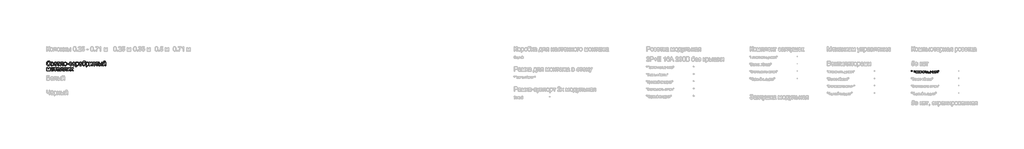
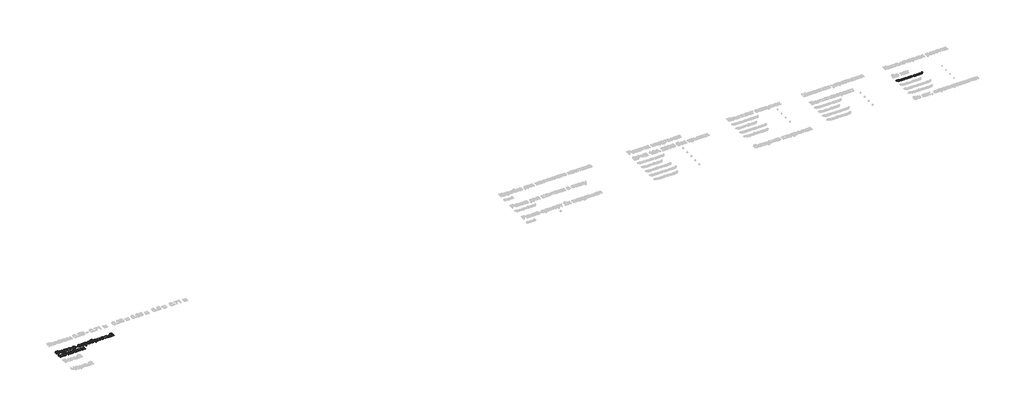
# One storey, part 77 of 168: 2 proxies.
"""IFC4 building model written with IfcOpenShell, lengths in millimetres."""

from ifc_helpers import new_model, si_unit, origin, origin_with_axes, place, context, project, spatial, polyline, outline, extrude, element, save

model = new_model("IFC4")

# Units and contexts
model_context = context("Model", 3, world=origin())
ifc_project = project(units=[si_unit("LENGTHUNIT", "METRE", prefix="MILLI")], contexts=[model_context])

# Site, building, storey
site = spatial("IfcSite", under=ifc_project)
building = spatial("IfcBuilding", under=site)
storey = spatial("IfcBuildingStorey", under=building, Name="Этаж 01", Elevation=0.0)

# Proxies
placement = place(None, origin())
element("IfcBuildingElementProxy", 1, Name="300 мм Arial 2", ObjectType="300 мм Arial 2", at=placement, inside=storey, context=model_context, shape_type="SweptSolid", body=[
    extrude(outline(polyline([(990.7177608, -31859.7350607), (1028.3888771, -31869.4471454), (1020.9346682, -31892.8743307), (1011.0064528, -31913.3446645), (998.6042311, -31930.8581467), (983.7280029, -31945.4147774), (966.7134606, -31956.8582067), (947.8962965, -31965.0320848), (927.2765107, -31969.9364117), (904.8541031, -31971.5711873), (861.1589191, -31966.6231744), (826.4584499, -31951.7791359), (799.8605817, -31927.5541065), (780.4732005, -31894.4631211), (768.6365973, -31855.5596001), (764.6910629, -31813.8969641), (769.1516321, -31769.9534598), (782.5333397, -31732.006432), (804.1372099, -31701.2606943), (833.2642668, -31678.9210601), (867.8083862, -31665.3186233), (905.6634435, -31660.7844777), (946.9673945, -31666.6521956), (964.9361307, -31673.9868428), (981.1160407, -31684.255349), (995.2404101, -31697.1864012), (1007.0425243, -31712.5086863), (1023.6799876, -31750.3269554), (986.0088712, -31759.3032761), (972.9490604, -31731.8316881), (955.1067837, -31712.9869329), (932.2613118, -31702.0884288), (904.1919155, -31698.4555941), (871.836694, -31702.4839019), (845.2572199, -31714.5688254), (825.0880895, -31733.4411718), (811.9638993, -31757.8317481), (804.7626093, -31785.4045036), (802.3621793, -31813.8233877), (805.2040677, -31848.6250245), (813.7297329, -31878.7177717), (828.2610717, -31902.9519981), (849.1199808, -31920.1780725), (874.1267595, -31930.4695714), (901.1017068, -31933.900071), (932.5464203, -31929.2279696), (958.7488154, -31915.2116656), (978.5316697, -31891.9983117), (990.7177608, -31859.7350607)])), origin_with_axes(), (0.0, 0.0, 1.0), 20.0),
    extrude(outline(polyline([(1075.4777725, -31745.5444894), (1158.4719506, -31745.5444894), (1185.1525923, -31746.8044853), (1203.9789534, -31750.5844728), (1217.8297105, -31757.7213835), (1229.5835403, -31769.0521489), (1237.6125648, -31783.813414), (1240.2889063, -31801.2418235), (1238.6702255, -31815.2857187), (1233.8141832, -31827.3982334), (1225.7023852, -31837.6345499), (1214.3164375, -31846.0498505), (1228.2591651, -31853.87654), (1239.6267187, -31866.4673012), (1247.1866937, -31882.828853), (1249.7066854, -31901.9679138), (1243.3239328, -31930.6811035), (1228.1488005, -31950.8962191), (1204.1261062, -31962.8707781), (1171.2006676, -31966.8622977), (1075.4777725, -31966.8622977), (1075.4777725, -31745.5444894)]), holes=[polyline([(1113.1488888, -31830.3045011), (1150.3785467, -31830.3045011), (1181.0966933, -31828.3915147), (1196.0327023, -31820.7395692), (1200.9715181, -31814.4119989), (1202.61779, -31806.9072062), (1199.7299163, -31795.6684113), (1191.0662954, -31788.4395301), (1175.4129165, -31784.5215868), (1151.5557691, -31783.2156057), (1113.1488888, -31783.2156057), (1113.1488888, -31830.3045011)]), polyline([(1113.1488888, -31929.1911814), (1159.3548674, -31929.1911814), (1184.5363899, -31927.4897272), (1200.3369216, -31922.3853645), (1208.8166016, -31913.1055412), (1212.0355691, -31898.877705), (1210.4260854, -31889.4507289), (1205.5976342, -31880.7411227), (1198.184812, -31873.9261087), (1188.8222152, -31870.1829094), (1155.6760474, -31867.9756174), (1113.1488888, -31867.9756174), (1113.1488888, -31929.1911814)])]), origin_with_axes(), (0.0, 0.0, 1.0), 20.0),
    extrude(outline(polyline([(1451.7474771, -31900.9378442), (1488.6828295, -31905.6467337), (1475.3746983, -31933.4770067), (1454.1387101, -31954.2807335), (1425.4531115, -31967.2485738), (1389.7961492, -31971.5711873), (1366.4218469, -31969.7064854), (1345.5951274, -31964.1123798), (1327.3159908, -31954.7888705), (1311.584437, -31941.7359575), (1298.9338949, -31925.3169242), (1289.8977934, -31905.8950541), (1284.4761325, -31883.4703472), (1282.6689122, -31858.0428036), (1284.4945266, -31831.7530365), (1289.9713698, -31808.5810693), (1299.0994418, -31788.526902), (1311.8787426, -31771.5905347), (1327.5689097, -31758.1352507), (1345.4295805, -31748.5243336), (1365.4607552, -31742.7577833), (1387.6624336, -31740.8355999), (1409.1490414, -31742.7531848), (1428.5801085, -31748.5059395), (1445.955635, -31758.093864), (1461.2756208, -31771.5169583), (1473.7813094, -31788.4165374), (1482.7139441, -31808.4339165), (1488.0735249, -31831.5690955), (1489.8600518, -31857.8220744), (1489.6393226, -31867.9756174), (1320.3400285, -31867.9756174), (1326.8607368, -31896.1737724), (1342.008278, -31916.9039228), (1363.8696655, -31929.6510339), (1390.5319131, -31933.900071), (1410.5814819, -31931.9319023), (1427.4672655, -31926.0273963), (1441.1892639, -31915.8186709), (1451.7474771, -31900.9378442)]), holes=[polyline([(1320.3400285, -31830.3045011), (1452.1889355, -31830.3045011), (1447.0937699, -31810.4020852), (1437.1057737, -31796.165052), (1415.1432186, -31782.9213001), (1387.5152808, -31778.5067162), (1362.1222261, -31782.0291863), (1341.1253612, -31792.5965966), (1326.529643, -31809.068513), (1320.3400285, -31830.3045011)])]), origin_with_axes(), (0.0, 0.0, 1.0), 20.0),
    extrude(outline(polyline([(1508.69561, -31745.5444894), (1687.6334124, -31745.5444894), (1687.6334124, -31783.2156057), (1617.0000694, -31783.2156057), (1617.0000694, -31966.8622977), (1579.3289531, -31966.8622977), (1579.3289531, -31783.2156057), (1508.69561, -31783.2156057), (1508.69561, -31745.5444894)])), origin_with_axes(), (0.0, 0.0, 1.0), 20.0),
    extrude(outline(polyline([(1739.4311974, -31745.5444894), (1908.9512207, -31745.5444894), (1908.9512207, -31966.6415685), (1871.2801044, -31966.6415685), (1871.2801044, -31783.2156057), (1777.1023137, -31783.2156057), (1777.1023137, -31888.7977384), (1774.5639279, -31937.5053145), (1769.8090531, -31948.5325773), (1760.6212003, -31958.069918), (1746.6784727, -31964.6642028), (1727.6589735, -31966.8622977), (1697.0511915, -31964.9493114), (1697.0511915, -31929.1911814), (1713.9001869, -31929.1911814), (1730.9331233, -31926.8735249), (1737.7389402, -31919.515885), (1739.4311974, -31886.6640228), (1739.4311974, -31745.5444894)])), origin_with_axes(), (0.0, 0.0, 1.0), 20.0),
    extrude(outline(polyline([(1956.0401161, -31856.2033936), (1958.0772627, -31827.5407876), (1964.1887023, -31802.8421102), (1974.3744351, -31782.1073612), (1988.6344609, -31765.3365408), (2002.9910558, -31754.6173791), (2018.8375727, -31746.9608351), (2036.1740117, -31742.3669087), (2055.0003728, -31740.8355999), (2075.7834063, -31742.7003018), (2094.5752785, -31748.2944073), (2111.3759893, -31757.6179167), (2126.1855389, -31770.6708297), (2138.2727617, -31787.0116881), (2146.9064923, -31806.1990334), (2152.0867306, -31828.2328656), (2153.8134767, -31853.1131848), (2150.7600562, -31891.1705772), (2141.5997945, -31920.1412843), (2126.5994061, -31941.837125), (2106.0256056, -31958.069918), (2081.589044, -31968.19587), (2055.0003728, -31971.5711873), (2033.9138367, -31969.7133832), (2014.9472206, -31964.139971), (1998.1005245, -31954.8509506), (1983.3737484, -31941.8463221), (1971.4152843, -31925.3468146), (1962.8735242, -31905.5731573), (1957.7484681, -31882.5253503), (1956.0401161, -31856.2033936)]), holes=[polyline([(1993.7112324, -31856.1298172), (1998.0706341, -31890.2232811), (2011.148839, -31914.5126898), (2030.8305257, -31929.0532257), (2055.0003728, -31933.900071), (2079.0598553, -31929.0256345), (2098.7047539, -31914.4023252), (2111.7829588, -31889.7910197), (2116.1423604, -31854.9525948), (2111.7553676, -31821.8524123), (2098.5943893, -31797.8940973), (2078.9218996, -31783.3535615), (2055.0003728, -31778.5067162), (2030.8305257, -31783.3351674), (2011.148839, -31797.8205209), (1998.0706341, -31822.0547474), (1993.7112324, -31856.1298172)])]), origin_with_axes(), (0.0, 0.0, 1.0), 20.0),
    extrude(outline(polyline([(2177.3579244, -31877.3933965), (2177.3579244, -31839.7222802), (2295.0801629, -31839.7222802), (2295.0801629, -31877.3933965), (2177.3579244, -31877.3933965)])), origin_with_axes(), (0.0, 0.0, 1.0), 20.0),
    extrude(outline(polyline([(2478.7268549, -31886.8111756), (2516.3979712, -31891.5200651), (2505.8949402, -31925.0249178), (2486.1580712, -31950.3443962), (2459.0451681, -31966.2644895), (2426.4140352, -31971.5711873), (2405.2861123, -31969.720281), (2386.3424888, -31964.1675621), (2369.5831647, -31954.9130307), (2355.0081399, -31941.9566867), (2343.2106242, -31925.5422519), (2334.7838272, -31905.9134482), (2329.727749, -31883.0702755), (2328.0423897, -31857.012734), (2330.9210663, -31823.4894872), (2339.5570961, -31794.4360066), (2354.0884349, -31770.9743324), (2374.6530384, -31754.2265045), (2399.2551469, -31744.1833261), (2425.8990004, -31740.8355999), (2457.72999, -31745.4341248), (2483.178227, -31759.2296997), (2501.434371, -31781.4865604), (2511.6890816, -31811.468943), (2474.0179653, -31816.1778325), (2467.1845573, -31799.7427044), (2456.5435706, -31787.9612835), (2442.6836164, -31780.870358), (2426.193306, -31778.5067162), (2401.8487149, -31783.1604234), (2382.5257131, -31797.1215452), (2369.9165578, -31821.1442394), (2365.713506, -31855.9826644), (2369.8245873, -31891.2901389), (2382.1578311, -31915.3956066), (2401.131345, -31929.2739549), (2425.1632364, -31933.900071), (2444.6701792, -31931.0121973), (2460.6638489, -31922.3485763), (2472.298117, -31907.6884788), (2478.7268549, -31886.8111756)])), origin_with_axes(), (0.0, 0.0, 1.0), 20.0),
    extrude(outline(polyline([(2704.3120943, -31900.9378442), (2741.2474466, -31905.6467337), (2727.9393155, -31933.4770067), (2706.7033273, -31954.2807335), (2678.0177287, -31967.2485738), (2642.3607663, -31971.5711873), (2618.9864641, -31969.7064854), (2598.1597446, -31964.1123798), (2579.880608, -31954.7888705), (2564.1490542, -31941.7359575), (2551.498512, -31925.3169242), (2542.4624105, -31905.8950541), (2537.0407496, -31883.4703472), (2535.2335293, -31858.0428036), (2537.0591437, -31831.7530365), (2542.5359869, -31808.5810693), (2551.6640589, -31788.526902), (2564.4433598, -31771.5905347), (2580.1335268, -31758.1352507), (2597.9941977, -31748.5243336), (2618.0253723, -31742.7577833), (2640.2270508, -31740.8355999), (2661.7136585, -31742.7531848), (2681.1447257, -31748.5059395), (2698.5202522, -31758.093864), (2713.840238, -31771.5169583), (2726.3459266, -31788.4165374), (2735.2785613, -31808.4339165), (2740.6381421, -31831.5690955), (2742.424669, -31857.8220744), (2742.2039398, -31867.9756174), (2572.9046456, -31867.9756174), (2579.425354, -31896.1737724), (2594.5728952, -31916.9039228), (2616.4342827, -31929.6510339), (2643.0965303, -31933.900071), (2663.1460991, -31931.9319023), (2680.0318826, -31926.0273963), (2693.7538811, -31915.8186709), (2704.3120943, -31900.9378442)]), holes=[polyline([(2572.9046456, -31830.3045011), (2704.7535527, -31830.3045011), (2699.6583871, -31810.4020852), (2689.6703909, -31796.165052), (2667.7078358, -31782.9213001), (2640.079898, -31778.5067162), (2614.6868432, -31782.0291863), (2593.6899784, -31792.5965966), (2579.0942602, -31809.068513), (2572.9046456, -31830.3045011)])]), origin_with_axes(), (0.0, 0.0, 1.0), 20.0),
    extrude(outline(polyline([(2780.0957853, -32051.6223094), (2780.0957853, -31745.5444894), (2817.7669016, -31745.5444894), (2817.7669016, -31782.4798418), (2830.0541603, -31764.2604859), (2843.8129469, -31751.2466604), (2859.8526019, -31743.438365), (2878.9824656, -31740.8355999), (2904.4582938, -31744.4776316), (2926.7335486, -31755.4037269), (2944.870131, -31772.9516981), (2957.9299418, -31796.4593576), (2965.8210106, -31824.2160541), (2968.4513669, -31854.5111364), (2965.4807197, -31886.7284021), (2956.5687784, -31915.5427594), (2942.0006514, -31939.4918773), (2922.0614473, -31957.1134249), (2898.8388963, -31967.9567467), (2874.4207289, -31971.5711873), (2857.102684, -31969.1523632), (2841.6424431, -31961.8958908), (2828.4078883, -31950.9422044), (2817.7669016, -31937.4317381), (2817.7669016, -32051.6223094), (2780.0957853, -32051.6223094)]), holes=[polyline([(2817.7669016, -31857.9692272), (2821.8411947, -31891.7407943), (2834.064074, -31915.3588184), (2852.0994888, -31929.2647578), (2873.6113885, -31933.900071), (2895.4727761, -31929.0992109), (2913.9680434, -31914.6966308), (2926.5771988, -31890.214084), (2930.7802505, -31855.173324), (2926.6783663, -31821.5856978), (2914.3727136, -31797.63658), (2896.3648899, -31783.2891821), (2875.1564929, -31778.5067162), (2853.8653224, -31783.5926848), (2835.16772, -31798.8505905), (2822.1171062, -31823.8021869), (2817.7669016, -31857.9692272)])]), origin_with_axes(), (0.0, 0.0, 1.0), 20.0),
    extrude(outline(polyline([(3165.7832691, -31900.9378442), (3202.7186214, -31905.6467337), (3189.4104902, -31933.4770067), (3168.174502, -31954.2807335), (3139.4889035, -31967.2485738), (3103.8319411, -31971.5711873), (3080.4576388, -31969.7064854), (3059.6309194, -31964.1123798), (3041.3517827, -31954.7888705), (3025.6202289, -31941.7359575), (3012.9696868, -31925.3169242), (3003.9335853, -31905.8950541), (2998.5119244, -31883.4703472), (2996.7047041, -31858.0428036), (2998.5303185, -31831.7530365), (3004.0071617, -31808.5810693), (3013.1352337, -31788.526902), (3025.9145345, -31771.5905347), (3041.6047016, -31758.1352507), (3059.4653725, -31748.5243336), (3079.4965471, -31742.7577833), (3101.6982255, -31740.8355999), (3123.1848333, -31742.7531848), (3142.6159004, -31748.5059395), (3159.9914269, -31758.093864), (3175.3114127, -31771.5169583), (3187.8171013, -31788.4165374), (3196.749736, -31808.4339165), (3202.1093168, -31831.5690955), (3203.8958438, -31857.8220744), (3203.6751146, -31867.9756174), (3034.3758204, -31867.9756174), (3040.8965288, -31896.1737724), (3056.0440699, -31916.9039228), (3077.9054575, -31929.6510339), (3104.5677051, -31933.900071), (3124.6172738, -31931.9319023), (3141.5030574, -31926.0273963), (3155.2250558, -31915.8186709), (3165.7832691, -31900.9378442)]), holes=[polyline([(3034.3758204, -31830.3045011), (3166.2247275, -31830.3045011), (3161.1295618, -31810.4020852), (3151.1415657, -31796.165052), (3129.1790105, -31782.9213001), (3101.5510727, -31778.5067162), (3076.158018, -31782.0291863), (3055.1611531, -31792.5965966), (3040.565435, -31809.068513), (3034.3758204, -31830.3045011)])]), origin_with_axes(), (0.0, 0.0, 1.0), 20.0),
    extrude(outline(polyline([(3396.9603148, -31660.7844777), (3429.9225416, -31660.7844777), (3426.3540863, -31678.6911339), (3420.2104569, -31690.1782492), (3411.6939887, -31696.974869), (3401.0070168, -31700.8100388), (3354.8746146, -31703.1644836), (3316.5689018, -31705.3349874), (3292.7393456, -31711.8464987), (3278.4839183, -31723.1404759), (3268.9005923, -31739.6583775), (3263.2628007, -31761.5289621), (3260.8439766, -31788.8809885), (3275.9915178, -31767.8381383), (3293.4751096, -31752.8285529), (3313.3131462, -31743.8338382), (3335.5240216, -31740.8355999), (3356.0472384, -31742.7416885), (3374.7218482, -31748.4599542), (3391.547851, -31757.9903972), (3406.5252467, -31771.3330173), (3418.8217024, -31787.9267945), (3427.604885, -31807.2107089), (3432.8747946, -31829.1847603), (3434.6314311, -31853.8489488), (3431.1457492, -31889.8094138), (3420.6887035, -31918.6697564), (3405.4491919, -31941.101361), (3387.6161122, -31957.7756125), (3365.0281577, -31968.1222936), (3335.5240216, -31971.5711873), (3301.5225282, -31967.1290122), (3276.037503, -31953.8024869), (3257.2847183, -31933.5505831), (3243.4799464, -31908.3322723), (3234.9818724, -31870.3576533), (3232.149181, -31811.836825), (3233.9357079, -31772.1722481), (3239.2952888, -31739.55721), (3248.2279234, -31713.9917106), (3260.733612, -31695.4757499), (3276.9457117, -31682.3584575), (3296.9975797, -31672.9889629), (3320.889216, -31667.3672662), (3348.6206207, -31665.4933673), (3390.5591681, -31664.6472387), (3396.9603148, -31660.7844777)]), holes=[polyline([(3396.9603148, -31852.6717264), (3392.8768247, -31823.0296347), (3380.6263543, -31799.2920489), (3360.9446675, -31783.7030494), (3334.5675285, -31778.5067162), (3307.0683493, -31783.997355), (3295.9813057, -31790.8606535), (3286.6692927, -31800.4692713), (3274.0325461, -31826.1198434), (3269.8202973, -31859.1464495), (3274.4740045, -31891.1613802), (3288.4351263, -31914.6598426), (3309.220459, -31929.0900139), (3334.3467993, -31933.900071), (3359.6018982, -31928.3358558), (3379.5962847, -31911.6432103), (3392.6193073, -31885.7719089), (3396.9603148, -31852.6717264)])]), origin_with_axes(), (0.0, 0.0, 1.0), 20.0),
    extrude(outline(polyline([(3481.7203265, -32051.6223094), (3481.7203265, -31745.5444894), (3519.3914428, -31745.5444894), (3519.3914428, -31782.4798418), (3531.6787015, -31764.2604859), (3545.4374881, -31751.2466604), (3561.4771431, -31743.438365), (3580.6070068, -31740.8355999), (3606.082835, -31744.4776316), (3628.3580898, -31755.4037269), (3646.4946722, -31772.9516981), (3659.554483, -31796.4593576), (3667.4455518, -31824.2160541), (3670.0759081, -31854.5111364), (3667.1052609, -31886.7284021), (3658.1933196, -31915.5427594), (3643.6251926, -31939.4918773), (3623.6859885, -31957.1134249), (3600.4634375, -31967.9567467), (3576.0452701, -31971.5711873), (3558.7272252, -31969.1523632), (3543.2669843, -31961.8958908), (3530.0324295, -31950.9422044), (3519.3914428, -31937.4317381), (3519.3914428, -32051.6223094), (3481.7203265, -32051.6223094)]), holes=[polyline([(3519.3914428, -31857.9692272), (3523.4657359, -31891.7407943), (3535.6886152, -31915.3588184), (3553.72403, -31929.2647578), (3575.2359297, -31933.900071), (3597.0973173, -31929.0992109), (3615.5925846, -31914.6966308), (3628.20174, -31890.214084), (3632.4047917, -31855.173324), (3628.3029075, -31821.5856978), (3615.9972548, -31797.63658), (3597.9894311, -31783.2891821), (3576.7810341, -31778.5067162), (3555.4898636, -31783.5926848), (3536.7922612, -31798.8505905), (3523.7416474, -31823.8021869), (3519.3914428, -31857.9692272)])]), origin_with_axes(), (0.0, 0.0, 1.0), 20.0),
    extrude(outline(polyline([(3712.4559139, -31745.5444894), (3750.1270302, -31745.5444894), (3750.1270302, -31914.3287488), (3842.6861402, -31745.5444894), (3891.3937164, -31745.5444894), (3891.3937164, -31966.8622977), (3853.7226, -31966.8622977), (3853.7226, -31799.1081079), (3761.7521013, -31966.8622977), (3712.4559139, -31966.8622977), (3712.4559139, -31745.5444894)])), origin_with_axes(), (0.0, 0.0, 1.0), 20.0),
    extrude(outline(polyline([(4089.167077, -31886.8111756), (4126.8381933, -31891.5200651), (4116.3351623, -31925.0249178), (4096.5982933, -31950.3443962), (4069.4853902, -31966.2644895), (4036.8542572, -31971.5711873), (4015.7263344, -31969.720281), (3996.7827109, -31964.1675621), (3980.0233868, -31954.9130307), (3965.448362, -31941.9566867), (3953.6508463, -31925.5422519), (3945.2240493, -31905.9134482), (3940.1679711, -31883.0702755), (3938.4826117, -31857.012734), (3941.3612883, -31823.4894872), (3949.9973182, -31794.4360066), (3964.528657, -31770.9743324), (3985.0932605, -31754.2265045), (4009.695369, -31744.1833261), (4036.3392225, -31740.8355999), (4068.1702121, -31745.4341248), (4093.6184491, -31759.2296997), (4111.8745931, -31781.4865604), (4122.1293037, -31811.468943), (4084.4581874, -31816.1778325), (4077.6247794, -31799.7427044), (4066.9837927, -31787.9612835), (4053.1238385, -31780.870358), (4036.6335281, -31778.5067162), (4012.288937, -31783.1604234), (3992.9659352, -31797.1215452), (3980.3567798, -31821.1442394), (3976.153728, -31855.9826644), (3980.2648093, -31891.2901389), (3992.5980532, -31915.3956066), (4011.5715671, -31929.2739549), (4035.6034585, -31933.900071), (4055.1104013, -31931.0121973), (4071.104071, -31922.3485763), (4082.7383391, -31907.6884788), (4089.167077, -31886.8111756)])), origin_with_axes(), (0.0, 0.0, 1.0), 20.0),
    extrude(outline(polyline([(4140.9648619, -31745.5444894), (4319.9026643, -31745.5444894), (4319.9026643, -31783.2156057), (4249.2693213, -31783.2156057), (4249.2693213, -31966.8622977), (4211.598205, -31966.8622977), (4211.598205, -31783.2156057), (4140.9648619, -31783.2156057), (4140.9648619, -31745.5444894)])), origin_with_axes(), (0.0, 0.0, 1.0), 20.0),
    extrude(outline(polyline([(4560.0560308, -31745.5444894), (4597.7271471, -31745.5444894), (4597.7271471, -31966.8622977), (4560.0560308, -31966.8622977), (4560.0560308, -31745.5444894)])), origin_with_axes(), (0.0, 0.0, 1.0), 20.0),
    extrude(outline(polyline([(4352.8648911, -31745.5444894), (4390.5360074, -31745.5444894), (4390.5360074, -31825.5956116), (4437.109868, -31825.5956116), (4477.3653553, -31830.3136982), (4493.5820535, -31836.2113064), (4507.1913881, -31844.4679579), (4517.9588342, -31854.7985442), (4525.6498672, -31866.9179567), (4530.264487, -31880.8261954), (4531.8026936, -31896.5232603), (4526.6431486, -31923.4798135), (4511.1645136, -31946.2241178), (4499.3026185, -31955.2533215), (4484.3551132, -31961.7027528), (4445.2032719, -31966.8622977), (4352.8648911, -31966.8622977), (4352.8648911, -31745.5444894)]), holes=[polyline([(4390.5360074, -31929.1911814), (4429.2371933, -31929.1911814), (4459.23797, -31927.2138157), (4479.1955682, -31921.2817185), (4490.397575, -31911.1557666), (4494.1315773, -31896.5968367), (4491.3632652, -31884.2911839), (4483.0583292, -31873.420271), (4465.2988259, -31865.8051137), (4434.166812, -31863.2667279), (4390.5360074, -31863.2667279), (4390.5360074, -31929.1911814)])]), origin_with_axes(), (0.0, 0.0, 1.0), 20.0),
    extrude(outline(polyline([(4654.2338216, -31745.5444894), (4691.9049379, -31745.5444894), (4691.9049379, -31914.3287488), (4784.4640478, -31745.5444894), (4833.171624, -31745.5444894), (4833.171624, -31966.8622977), (4795.5005077, -31966.8622977), (4795.5005077, -31799.1081079), (4703.5300089, -31966.8622977), (4654.2338216, -31966.8622977), (4654.2338216, -31745.5444894)])), origin_with_axes(), (0.0, 0.0, 1.0), 20.0),
    extrude(outline(polyline([(4776.6649495, -31665.4933673), (4804.9182868, -31665.4933673), (4798.8390368, -31689.6172291), (4786.6345516, -31707.3951265), (4768.8566542, -31718.3488129), (4746.0571675, -31722.0000417), (4721.3171034, -31718.3764041), (4702.1320573, -31707.5054911), (4689.0170642, -31689.7551849), (4682.4871588, -31665.4933673), (4710.740496, -31665.4933673), (4714.7136216, -31677.9001876), (4721.3354975, -31686.7201584), (4730.642912, -31691.990068), (4742.6726532, -31693.7467045), (4756.2474988, -31692.0452503), (4766.0699481, -31686.9408876), (4772.691824, -31678.1760991), (4776.6649495, -31665.4933673)])), origin_with_axes(), (0.0, 0.0, 1.0), 20.0),
    extrude(outline(polyline([(774.108842, -32111.468943), (838.9296496, -32111.468943), (888.8880245, -32288.6409118), (942.7459486, -32111.468943), (1004.8444294, -32111.468943), (1004.8444294, -32332.7867513), (967.1733131, -32332.7867513), (967.1733131, -32154.5847128), (913.0210834, -32332.7867513), (863.5777433, -32332.7867513), (811.7799583, -32146.0498505), (811.7799583, -32332.7867513), (774.108842, -32332.7867513), (774.108842, -32111.468943)])), origin_with_axes(), (0.0, 0.0, 1.0), 20.0),
    extrude(outline(polyline([(1216.3030002, -32266.8622977), (1253.2383525, -32271.5711873), (1239.9302214, -32299.4014602), (1218.6942332, -32320.205187), (1190.0086346, -32333.1730274), (1154.3516722, -32337.4956408), (1130.97737, -32335.6309389), (1110.1506505, -32330.0368334), (1091.8715139, -32320.713324), (1076.1399601, -32307.660411), (1063.489418, -32291.2413777), (1054.4533164, -32271.8195076), (1049.0316555, -32249.3948008), (1047.2244352, -32223.9672571), (1049.0500496, -32197.67749), (1054.5268928, -32174.5055228), (1063.6549649, -32154.4513556), (1076.4342657, -32137.5149882), (1092.1244328, -32124.0597043), (1109.9851036, -32114.4487871), (1130.0162783, -32108.6822369), (1152.2179567, -32106.7600534), (1173.7045644, -32108.6776383), (1193.1356316, -32114.430393), (1210.5111581, -32124.0183175), (1225.8311439, -32137.4414118), (1238.3368325, -32154.340991), (1247.2694672, -32174.35837), (1252.629048, -32197.493549), (1254.4155749, -32223.7465279), (1254.1948457, -32233.900071), (1084.8955515, -32233.900071), (1091.4162599, -32262.0982259), (1106.5638011, -32282.8283763), (1128.4251886, -32295.5754875), (1155.0874362, -32299.8245245), (1175.137005, -32297.8563558), (1192.0227885, -32291.9518498), (1205.744787, -32281.7431244), (1216.3030002, -32266.8622977)]), holes=[polyline([(1084.8955515, -32196.2289547), (1216.7444586, -32196.2289547), (1211.649293, -32176.3265387), (1201.6612968, -32162.0895055), (1179.6987417, -32148.8457537), (1152.0708039, -32144.4311697), (1126.6777492, -32147.9536398), (1105.6808843, -32158.5210502), (1091.0851661, -32174.9929665), (1084.8955515, -32196.2289547)])]), origin_with_axes(), (0.0, 0.0, 1.0), 20.0),
    extrude(outline(polyline([(1273.2511331, -32111.468943), (1452.1889355, -32111.468943), (1452.1889355, -32149.1400593), (1381.5555925, -32149.1400593), (1381.5555925, -32332.7867513), (1343.8844762, -32332.7867513), (1343.8844762, -32149.1400593), (1273.2511331, -32149.1400593), (1273.2511331, -32111.468943)])), origin_with_axes(), (0.0, 0.0, 1.0), 20.0),
    extrude(outline(polyline([(1626.4178484, -32304.533414), (1608.4192218, -32319.9660637), (1589.8871663, -32330.0644245), (1570.3986176, -32335.6378367), (1549.5305115, -32337.4956408), (1518.0490097, -32333.0258746), (1494.8264588, -32319.6165758), (1480.5066521, -32299.2543074), (1475.7333832, -32273.925632), (1477.536005, -32258.3090413), (1482.9438703, -32244.1271904), (1491.2855946, -32231.9870846), (1501.8897931, -32222.4957291), (1528.2669321, -32210.1348941), (1560.8612769, -32204.4695114), (1599.3785218, -32198.509823), (1626.1971193, -32191.5200651), (1626.4178484, -32183.1323556), (1623.8242804, -32166.3201485), (1616.0435762, -32155.3204768), (1598.6427578, -32147.1534965), (1574.3993343, -32144.4311697), (1551.9585326, -32146.2429886), (1536.2867596, -32151.678445), (1525.5997877, -32161.7308206), (1518.1133891, -32177.3933965), (1480.4422728, -32172.684507), (1486.9813752, -32152.0831152), (1496.7394452, -32135.8963075), (1510.6269905, -32123.5170783), (1529.5545191, -32114.3384225), (1552.7034937, -32108.6546457), (1579.2553767, -32106.7600534), (1604.7220078, -32108.4339165), (1624.9095323, -32113.4555057), (1640.1306498, -32121.0062837), (1650.6980601, -32130.2677129), (1657.7062121, -32141.71804), (1662.2495548, -32155.8355116), (1664.0889648, -32188.7977384), (1664.0889648, -32235.6659045), (1666.0019511, -32301.1121115), (1673.5067438, -32332.7867513), (1635.8356275, -32332.7867513), (1626.4178484, -32304.533414)]), holes=[polyline([(1626.4178484, -32229.1911814), (1565.6437428, -32240.7426761), (1533.2333391, -32246.8495172), (1518.5548475, -32256.7823311), (1513.4044995, -32271.2768817), (1516.2095997, -32282.4788884), (1524.6249004, -32291.6575442), (1538.4664605, -32297.7827794), (1557.550339, -32299.8245245), (1577.7838487, -32297.5712473), (1595.6629137, -32290.8114156), (1610.1574643, -32280.8510106), (1620.2374309, -32268.9960133), (1624.7071972, -32256.7823311), (1626.1971193, -32239.8597593), (1626.4178484, -32229.1911814)])]), origin_with_axes(), (0.0, 0.0, 1.0), 20.0),
    extrude(outline(polyline([(1734.7223078, -32111.468943), (1904.2423312, -32111.468943), (1904.2423312, -32332.5660221), (1866.5712149, -32332.5660221), (1866.5712149, -32149.1400593), (1772.3934241, -32149.1400593), (1772.3934241, -32254.7221919), (1769.8550384, -32303.4297681), (1765.1001636, -32314.4570309), (1755.9123108, -32323.9943716), (1741.9695831, -32330.5886563), (1722.950084, -32332.7867513), (1692.342302, -32330.8737649), (1692.342302, -32295.115635), (1709.1912974, -32295.115635), (1726.2242337, -32292.7979784), (1733.0300507, -32285.4403385), (1734.7223078, -32252.5884763), (1734.7223078, -32111.468943)])), origin_with_axes(), (0.0, 0.0, 1.0), 20.0),
    extrude(outline(polyline([(1979.5845638, -32111.468943), (2149.1045872, -32111.468943), (2149.1045872, -32332.5660221), (2111.4334709, -32332.5660221), (2111.4334709, -32149.1400593), (2017.2556801, -32149.1400593), (2017.2556801, -32254.7221919), (2014.7172944, -32303.4297681), (2009.9624196, -32314.4570309), (2000.7745667, -32323.9943716), (1986.8318391, -32330.5886563), (1967.81234, -32332.7867513), (1937.204558, -32330.8737649), (1937.204558, -32295.115635), (1954.0535534, -32295.115635), (1971.0864897, -32292.7979784), (1977.8923066, -32285.4403385), (1979.5845638, -32252.5884763), (1979.5845638, -32111.468943)])), origin_with_axes(), (0.0, 0.0, 1.0), 20.0),
    extrude(outline(polyline([(2205.6112617, -32111.468943), (2243.282378, -32111.468943), (2243.282378, -32280.2532024), (2335.8414879, -32111.468943), (2384.5490641, -32111.468943), (2384.5490641, -32332.7867513), (2346.8779478, -32332.7867513), (2346.8779478, -32165.0325615), (2254.907449, -32332.7867513), (2205.6112617, -32332.7867513), (2205.6112617, -32111.468943)])), origin_with_axes(), (0.0, 0.0, 1.0), 20.0),
    extrude(outline(polyline([(2441.0557386, -32111.468943), (2478.7268549, -32111.468943), (2478.7268549, -32205.6467337), (2494.04914, -32203.9544766), (2503.9635597, -32198.877705), (2512.7375453, -32185.6339532), (2524.6385279, -32159.4407551), (2541.818617, -32125.4116706), (2556.9753552, -32114.3384225), (2584.5297167, -32111.468943), (2591.7402038, -32111.468943), (2591.7402038, -32149.3607885), (2581.5866607, -32149.1400593), (2563.192561, -32153.1131848), (2550.2431147, -32177.9084313), (2535.0495883, -32204.7270287), (2513.7492208, -32217.860416), (2525.6869916, -32223.1625152), (2537.5143977, -32232.5205135), (2560.8381162, -32263.404207), (2601.1579829, -32332.7867513), (2558.3365186, -32332.7867513), (2518.8259923, -32264.875735), (2498.9603646, -32236.1441511), (2489.6713442, -32230.9294239), (2478.7268549, -32229.1911814), (2478.7268549, -32332.7867513), (2441.0557386, -32332.7867513), (2441.0557386, -32111.468943)])), origin_with_axes(), (0.0, 0.0, 1.0), 20.0),
])
element("IfcBuildingElementProxy", 2, Name="150", ObjectType="150", at=placement, inside=storey, context=model_context, shape_type="SweptSolid", body=[
    extrude(outline(polyline([(60180.1485789, -32370.3300622), (60175.550054, -32341.2305964), (60175.550054, -32316.1778325), (60194.3856121, -32316.1778325), (60194.3856121, -32341.2305964), (60190.2653338, -32370.3300622), (60180.1485789, -32370.3300622)])), origin_with_axes(), (0.0, 0.0, 1.0), 20.0),
    extrude(outline(polyline([(60217.7093306, -32370.3300622), (60213.2211703, -32341.2305964), (60213.2211703, -32316.1778325), (60232.0567284, -32316.1778325), (60232.0567284, -32341.2305964), (60227.6421445, -32370.3300622), (60217.7093306, -32370.3300622)])), origin_with_axes(), (0.0, 0.0, 1.0), 20.0),
    extrude(outline(polyline([(60257.9556209, -32466.8622977), (60257.9556209, -32316.1778325), (60315.4555767, -32316.1778325), (60343.6169435, -32320.6108106), (60353.0807078, -32326.2348066), (60360.2452096, -32334.2408385), (60366.2600803, -32353.517855), (60361.2017028, -32371.1210085), (60345.9162059, -32384.4567308), (60356.5893823, -32390.030143), (60364.4758526, -32398.509823), (60369.3456905, -32409.3347507), (60370.9689698, -32421.9439061), (60366.5359918, -32442.19581), (60355.5547142, -32456.6167842), (60339.1655713, -32464.2687297), (60315.0141183, -32466.8622977), (60257.9556209, -32466.8622977)]), holes=[polyline([(60276.791179, -32377.3933965), (60311.1881456, -32377.3933965), (60331.2745025, -32375.7747157), (60343.3594261, -32368.8033519), (60347.4245221, -32356.5344874), (60343.6353376, -32344.2472287), (60332.7828187, -32336.9815593), (60308.5761834, -32335.0133907), (60276.791179, -32335.0133907), (60276.791179, -32377.3933965)]), polyline([(60276.791179, -32448.0267396), (60315.4187885, -32448.0267396), (60329.3983043, -32447.2909756), (60341.2257105, -32443.1890913), (60349.061597, -32434.819776), (60352.1334117, -32422.1278471), (60348.5281681, -32407.4861437), (60336.8479148, -32398.7489463), (60313.5793786, -32396.2289547), (60276.791179, -32396.2289547), (60276.791179, -32448.0267396)])]), origin_with_axes(), (0.0, 0.0, 1.0), 20.0),
    extrude(outline(polyline([(60465.1467606, -32452.7356291), (60446.8814195, -32465.5011344), (60426.7030921, -32469.2167425), (60410.9623412, -32466.9818594), (60399.3510657, -32460.27721), (60392.1911624, -32450.0960758), (60389.804528, -32437.4317381), (60393.4097715, -32422.5325173), (60402.8827329, -32411.7167867), (60416.0713024, -32405.5363691), (60432.3684748, -32402.7036778), (60465.036396, -32396.2289547), (60465.1467606, -32392.0350999), (60463.8499765, -32383.6289963), (60459.9596244, -32378.1291605), (60451.2592153, -32374.0456704), (60439.1375035, -32372.684507), (60420.0812162, -32376.3081446), (60410.9945309, -32389.1656204), (60392.1589727, -32386.8111756), (60400.3075589, -32368.4170758), (60416.7150959, -32357.6381334), (60441.5655247, -32353.8489488), (60464.3926025, -32357.196675), (60477.2868664, -32365.6027786), (60483.0626137, -32378.3866779), (60483.9823187, -32394.8677913), (60483.9823187, -32418.3018744), (60484.9388119, -32451.0249778), (60488.6912083, -32466.8622977), (60469.8556501, -32466.8622977), (60465.1467606, -32452.7356291)]), holes=[polyline([(60465.1467606, -32415.0645128), (60434.7597078, -32420.8402601), (60418.5545059, -32423.8936807), (60411.2152601, -32428.8600876), (60408.6400861, -32436.1073629), (60414.2502865, -32446.2976942), (60430.7130058, -32450.3811843), (60449.7692932, -32445.8746299), (60462.0565518, -32434.9669288), (60465.036396, -32420.3988017), (60465.1467606, -32415.0645128)])]), origin_with_axes(), (0.0, 0.0, 1.0), 20.0),
    extrude(outline(polyline([(60509.8812112, -32356.2033936), (60528.7167693, -32356.2033936), (60528.7167693, -32398.5833994), (60578.1601095, -32398.5833994), (60578.1601095, -32356.2033936), (60596.9956676, -32356.2033936), (60596.9956676, -32466.8622977), (60578.1601095, -32466.8622977), (60578.1601095, -32417.4189576), (60528.7167693, -32417.4189576), (60528.7167693, -32466.8622977), (60509.8812112, -32466.8622977), (60509.8812112, -32356.2033936)])), origin_with_axes(), (0.0, 0.0, 1.0), 20.0),
    extrude(outline(polyline([(60625.2490049, -32356.2033936), (60644.084563, -32356.2033936), (60644.084563, -32440.5955233), (60690.364118, -32356.2033936), (60714.7179061, -32356.2033936), (60714.7179061, -32466.8622977), (60695.8823479, -32466.8622977), (60695.8823479, -32382.9852028), (60649.8970985, -32466.8622977), (60625.2490049, -32466.8622977), (60625.2490049, -32356.2033936)])), origin_with_axes(), (0.0, 0.0, 1.0), 20.0),
    extrude(outline(polyline([(60752.3890224, -32356.2033936), (60837.1490341, -32356.2033936), (60837.1490341, -32466.7519331), (60818.3134759, -32466.7519331), (60818.3134759, -32375.0389517), (60771.2245806, -32375.0389517), (60771.2245806, -32427.830018), (60769.9553877, -32452.1838061), (60762.9840239, -32462.4661079), (60746.5029105, -32466.8622977), (60731.1990195, -32465.9058045), (60731.1990195, -32448.0267396), (60739.6235172, -32448.0267396), (60748.1399854, -32446.8679113), (60751.5428938, -32443.1890913), (60752.3890224, -32426.7631603), (60752.3890224, -32356.2033936)])), origin_with_axes(), (0.0, 0.0, 1.0), 20.0),
    extrude(outline(polyline([(60865.4023713, -32356.2033936), (60884.2379295, -32356.2033936), (60884.2379295, -32396.2289547), (60905.9429672, -32396.2289547), (60924.7601312, -32398.587998), (60938.6844648, -32405.6651278), (60947.2929034, -32416.8901272), (60950.162383, -32431.692779), (60947.7205663, -32445.1710556), (60940.395116, -32456.5432078), (60927.6985887, -32464.2825252), (60909.1435405, -32466.8622977), (60865.4023713, -32466.8622977), (60865.4023713, -32356.2033936)]), holes=[polyline([(60884.2379295, -32448.0267396), (60901.8226888, -32448.0267396), (60924.539402, -32444.0720081), (60929.6299692, -32439.0090322), (60931.3268249, -32431.7295672), (60926.3052356, -32420.1412843), (60918.2348244, -32416.3337057), (60904.066769, -32415.0645128), (60884.2379295, -32415.0645128), (60884.2379295, -32448.0267396)])]), origin_with_axes(), (0.0, 0.0, 1.0), 20.0),
    extrude(outline(polyline([(60973.7068307, -32356.2033936), (60992.5423889, -32356.2033936), (60992.5423889, -32398.5833994), (61041.985729, -32398.5833994), (61041.985729, -32356.2033936), (61060.8212872, -32356.2033936), (61060.8212872, -32466.8622977), (61041.985729, -32466.8622977), (61041.985729, -32417.4189576), (60992.5423889, -32417.4189576), (60992.5423889, -32466.8622977), (60973.7068307, -32466.8622977), (60973.7068307, -32356.2033936)])), origin_with_axes(), (0.0, 0.0, 1.0), 20.0),
    extrude(outline(polyline([(61159.7079675, -32452.7356291), (61141.4426264, -32465.5011344), (61121.264299, -32469.2167425), (61105.5235481, -32466.9818594), (61093.9122726, -32460.27721), (61086.7523693, -32450.0960758), (61084.3657349, -32437.4317381), (61087.9709784, -32422.5325173), (61097.4439398, -32411.7167867), (61110.6325093, -32405.5363691), (61126.9296817, -32402.7036778), (61159.5976029, -32396.2289547), (61159.7079675, -32392.0350999), (61158.4111834, -32383.6289963), (61154.5208313, -32378.1291605), (61145.8204221, -32374.0456704), (61133.6987104, -32372.684507), (61114.6424231, -32376.3081446), (61105.5557378, -32389.1656204), (61086.7201796, -32386.8111756), (61094.8687658, -32368.4170758), (61111.2763028, -32357.6381334), (61136.1267316, -32353.8489488), (61158.9538094, -32357.196675), (61171.8480733, -32365.6027786), (61177.6238206, -32378.3866779), (61178.5435256, -32394.8677913), (61178.5435256, -32418.3018744), (61179.5000188, -32451.0249778), (61183.2524152, -32466.8622977), (61164.416857, -32466.8622977), (61159.7079675, -32452.7356291)]), holes=[polyline([(61159.7079675, -32415.0645128), (61129.3209147, -32420.8402601), (61113.1157128, -32423.8936807), (61105.776467, -32428.8600876), (61103.201293, -32436.1073629), (61108.8114934, -32446.2976942), (61125.2742127, -32450.3811843), (61144.3305001, -32445.8746299), (61156.6177587, -32434.9669288), (61159.5976029, -32420.3988017), (61159.7079675, -32415.0645128)])]), origin_with_axes(), (0.0, 0.0, 1.0), 20.0),
    extrude(outline(polyline([(61289.2024298, -32356.2033936), (61289.2024298, -32466.8622977), (61270.3668716, -32466.8622977), (61270.3668716, -32424.4822919), (61260.1029639, -32424.4822919), (61246.1234481, -32426.8735249), (61232.9900609, -32442.949968), (61217.9804755, -32466.8622977), (61196.2018614, -32466.8622977), (61215.1109959, -32436.6223977), (61223.4619172, -32425.7698789), (61231.1506509, -32420.9506247), (61218.2747811, -32417.0050903), (61209.224884, -32409.5094947), (61203.872201, -32399.5398926), (61202.0879733, -32388.172339), (61204.5251915, -32375.278075), (61211.8368462, -32365.0693497), (61223.7654199, -32358.4198826), (61240.0533952, -32356.2033936), (61289.2024298, -32356.2033936)]), holes=[polyline([(61270.3668716, -32375.0389517), (61245.5348369, -32375.0389517), (61232.7095509, -32376.1288021), (61225.4300859, -32379.3983534), (61220.9235315, -32389.6070787), (61222.583599, -32396.7853762), (61227.5638015, -32401.7655787), (61251.0898551, -32405.6467337), (61270.3668716, -32405.6467337), (61270.3668716, -32375.0389517)])]), origin_with_axes(), (0.0, 0.0, 1.0), 20.0),
    extrude(outline(polyline([(61392.7979996, -32356.2033936), (61463.4313427, -32356.2033936), (61463.4313427, -32448.0267396), (61477.5580113, -32448.0267396), (61477.5580113, -32497.4700797), (61458.7224531, -32497.4700797), (61458.7224531, -32466.8622977), (61381.0257758, -32466.8622977), (61381.0257758, -32497.4700797), (61362.1902176, -32497.4700797), (61362.1902176, -32448.0267396), (61373.9624415, -32448.0267396), (61382.5202964, -32432.5619002), (61388.5121744, -32412.1030628), (61392.7979996, -32356.2033936)]), holes=[polyline([(61409.279113, -32375.0389517), (61404.864529, -32417.9523865), (61395.1524444, -32448.0267396), (61444.5957845, -32448.0267396), (61444.5957845, -32375.0389517), (61409.279113, -32375.0389517)])]), origin_with_axes(), (0.0, 0.0, 1.0), 20.0),
    extrude(outline(polyline([(61602.3435841, -32356.2033936), (61621.1791422, -32356.2033936), (61621.1791422, -32466.8622977), (61602.3435841, -32466.8622977), (61602.3435841, -32356.2033936)])), origin_with_axes(), (0.0, 0.0, 1.0), 20.0),
    extrude(outline(polyline([(61498.7480142, -32356.2033936), (61517.5835724, -32356.2033936), (61517.5835724, -32396.2289547), (61540.8705027, -32396.2289547), (61560.9982463, -32398.587998), (61575.9112627, -32405.6651278), (61585.1405023, -32416.8901272), (61588.2169154, -32431.692779), (61585.637143, -32445.1710556), (61577.8978255, -32456.5432078), (61564.4931253, -32464.2825252), (61544.9172046, -32466.8622977), (61498.7480142, -32466.8622977), (61498.7480142, -32356.2033936)]), holes=[polyline([(61517.5835724, -32448.0267396), (61536.9341653, -32448.0267396), (61561.9133528, -32444.0720081), (61567.5143562, -32439.0090322), (61569.3813573, -32431.7295672), (61563.8447333, -32420.1412843), (61554.9649816, -32416.3337057), (61539.3989747, -32415.0645128), (61517.5835724, -32415.0645128), (61517.5835724, -32448.0267396)])]), origin_with_axes(), (0.0, 0.0, 1.0), 20.0),
    extrude(outline(polyline([(61649.4324794, -32356.2033936), (61681.8428832, -32356.2033936), (61706.8220707, -32444.789378), (61733.7510327, -32356.2033936), (61764.8002731, -32356.2033936), (61764.8002731, -32466.8622977), (61745.964715, -32466.8622977), (61745.964715, -32377.7612785), (61718.8886001, -32466.8622977), (61694.1669301, -32466.8622977), (61668.2680376, -32373.4938474), (61668.2680376, -32466.8622977), (61649.4324794, -32466.8622977), (61649.4324794, -32356.2033936)])), origin_with_axes(), (0.0, 0.0, 1.0), 20.0),
    extrude(outline(polyline([(61793.0536104, -32356.2033936), (61811.8891685, -32356.2033936), (61811.8891685, -32403.292289), (61824.5075209, -32399.9077746), (61834.845005, -32380.1892997), (61843.4350496, -32363.1747574), (61851.0134187, -32357.6381334), (61864.7905994, -32356.2033936), (61868.395843, -32356.2033936), (61868.395843, -32375.1493163), (61863.3190714, -32375.0389517), (61854.1220216, -32377.0255145), (61847.6472984, -32389.4231377), (61840.0505352, -32402.8324365), (61829.4003515, -32409.3991301), (61841.2829399, -32416.7291788), (61852.9447992, -32432.1710256), (61873.1047325, -32466.8622977), (61851.6940004, -32466.8622977), (61831.9387372, -32432.9067896), (61822.0059234, -32418.5409977), (61811.8891685, -32415.0645128), (61811.8891685, -32466.8622977), (61793.0536104, -32466.8622977), (61793.0536104, -32356.2033936)])), origin_with_axes(), (0.0, 0.0, 1.0), 20.0),
    extrude(outline(polyline([(61955.5102994, -32452.7356291), (61937.2449584, -32465.5011344), (61917.0666309, -32469.2167425), (61901.3258801, -32466.9818594), (61889.7146046, -32460.27721), (61882.5547013, -32450.0960758), (61880.1680668, -32437.4317381), (61883.7733104, -32422.5325173), (61893.2462717, -32411.7167867), (61906.4348413, -32405.5363691), (61922.7320137, -32402.7036778), (61955.3999348, -32396.2289547), (61955.5102994, -32392.0350999), (61954.2135154, -32383.6289963), (61950.3231633, -32378.1291605), (61941.6227541, -32374.0456704), (61929.5010424, -32372.684507), (61910.444755, -32376.3081446), (61901.3580697, -32389.1656204), (61882.5225116, -32386.8111756), (61890.6710978, -32368.4170758), (61907.0786348, -32357.6381334), (61931.9290635, -32353.8489488), (61954.7561413, -32357.196675), (61967.6504053, -32365.6027786), (61973.4261526, -32378.3866779), (61974.3458576, -32394.8677913), (61974.3458576, -32418.3018744), (61975.3023508, -32451.0249778), (61979.0547471, -32466.8622977), (61960.219189, -32466.8622977), (61955.5102994, -32452.7356291)]), holes=[polyline([(61955.5102994, -32415.0645128), (61925.1232466, -32420.8402601), (61908.9180447, -32423.8936807), (61901.5787989, -32428.8600876), (61899.003625, -32436.1073629), (61904.6138254, -32446.2976942), (61921.0765447, -32450.3811843), (61940.132832, -32445.8746299), (61952.4200907, -32434.9669288), (61955.3999348, -32420.3988017), (61955.5102994, -32415.0645128)])]), origin_with_axes(), (0.0, 0.0, 1.0), 20.0),
    extrude(outline(polyline([(62000.1343854, -32370.3300622), (61995.5358605, -32341.2305964), (61995.5358605, -32316.1778325), (62014.3714187, -32316.1778325), (62014.3714187, -32341.2305964), (62010.2511403, -32370.3300622), (62000.1343854, -32370.3300622)])), origin_with_axes(), (0.0, 0.0, 1.0), 20.0),
    extrude(outline(polyline([(62037.6951372, -32370.3300622), (62033.2069768, -32341.2305964), (62033.2069768, -32316.1778325), (62052.042535, -32316.1778325), (62052.042535, -32341.2305964), (62047.627951, -32370.3300622), (62037.6951372, -32370.3300622)])), origin_with_axes(), (0.0, 0.0, 1.0), 20.0),
])

save(model, "model.ifc")
